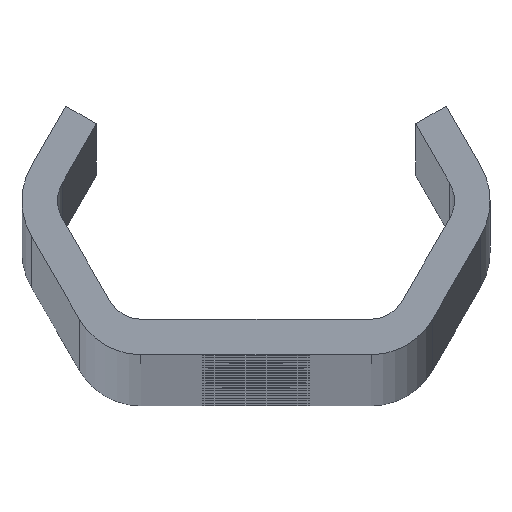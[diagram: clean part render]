
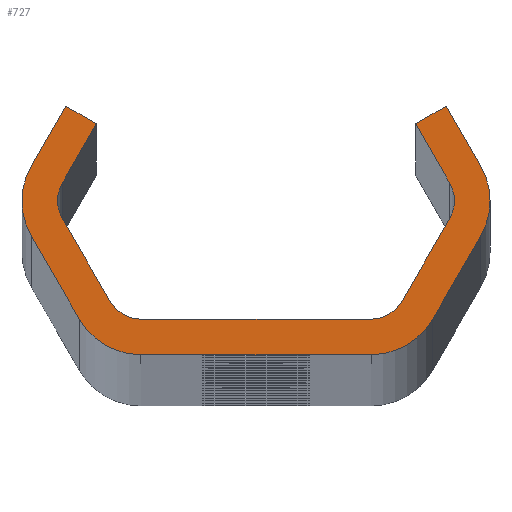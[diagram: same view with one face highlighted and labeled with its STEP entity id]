
A CAD part, top view. The second image highlights one B-rep face of the part: STEP entity #727.
In plain terms, the highlighted planar face has unit normal (0, 0, 1).
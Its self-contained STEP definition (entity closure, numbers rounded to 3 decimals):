
#727=ADVANCED_FACE('NONE',(#2022),#2023,.F.);
#2022=FACE_OUTER_BOUND('',#6564,.T.);
#2023=PLANE('',#6565);
#6564=EDGE_LOOP('',(#13301,#13302,#13303,#13304,#13305,#13306,#13307,#13308,#13309,#13310,#13311,#13312,#13313,#13314,#13315,#13316,#13317,#13318,#13319,#13320,#13321,#13322,#13323,#13324));
#6565=AXIS2_PLACEMENT_3D('',#13325,#13326,#13327);
#13301=ORIENTED_EDGE('',*,*,#17765,.T.);
#13302=ORIENTED_EDGE('',*,*,#17807,.T.);
#13303=ORIENTED_EDGE('',*,*,#17392,.T.);
#13304=ORIENTED_EDGE('',*,*,#17767,.T.);
#13305=ORIENTED_EDGE('',*,*,#17808,.T.);
#13306=ORIENTED_EDGE('',*,*,#17771,.T.);
#13307=ORIENTED_EDGE('',*,*,#17809,.T.);
#13308=ORIENTED_EDGE('',*,*,#17399,.T.);
#13309=ORIENTED_EDGE('',*,*,#17810,.T.);
#13310=ORIENTED_EDGE('',*,*,#17070,.T.);
#13311=ORIENTED_EDGE('',*,*,#17402,.T.);
#13312=ORIENTED_EDGE('',*,*,#17408,.T.);
#13313=ORIENTED_EDGE('',*,*,#17411,.T.);
#13314=ORIENTED_EDGE('',*,*,#17389,.T.);
#13315=ORIENTED_EDGE('',*,*,#17811,.T.);
#13316=ORIENTED_EDGE('',*,*,#17413,.T.);
#13317=ORIENTED_EDGE('',*,*,#17812,.T.);
#13318=ORIENTED_EDGE('',*,*,#17420,.T.);
#13319=ORIENTED_EDGE('',*,*,#17813,.T.);
#13320=ORIENTED_EDGE('',*,*,#17752,.T.);
#13321=ORIENTED_EDGE('',*,*,#17814,.T.);
#13322=ORIENTED_EDGE('',*,*,#17065,.T.);
#13323=ORIENTED_EDGE('',*,*,#17755,.T.);
#13324=ORIENTED_EDGE('',*,*,#17761,.T.);
#13325=CARTESIAN_POINT('',(0.0,0.0,2480.0));
#13326=DIRECTION('',(0.0,0.0,-1.0));
#13327=DIRECTION('',(0.0,-1.0,0.0));
#17065=EDGE_CURVE('NONE',#19018,#19022,#19024,.T.);
#17070=EDGE_CURVE('NONE',#19027,#19031,#19033,.T.);
#17389=EDGE_CURVE('NONE',#19607,#19605,#19608,.T.);
#17392=EDGE_CURVE('NONE',#19611,#19612,#19613,.T.);
#17399=EDGE_CURVE('NONE',#19625,#19623,#19626,.T.);
#17402=EDGE_CURVE('NONE',#19031,#19629,#19630,.T.);
#17408=EDGE_CURVE('NONE',#19629,#19637,#19639,.T.);
#17411=EDGE_CURVE('NONE',#19637,#19607,#19642,.T.);
#17413=EDGE_CURVE('NONE',#19644,#19645,#19646,.T.);
#17420=EDGE_CURVE('NONE',#19658,#19656,#19659,.T.);
#17752=EDGE_CURVE('NONE',#20274,#20272,#20275,.T.);
#17755=EDGE_CURVE('NONE',#19022,#20278,#20279,.T.);
#17761=EDGE_CURVE('NONE',#20278,#20286,#20288,.T.);
#17765=EDGE_CURVE('NONE',#20286,#20292,#20294,.T.);
#17767=EDGE_CURVE('NONE',#19612,#20296,#20297,.T.);
#17771=EDGE_CURVE('NONE',#20302,#20303,#20304,.T.);
#17807=EDGE_CURVE('NONE',#20292,#19611,#20342,.T.);
#17808=EDGE_CURVE('NONE',#20296,#20302,#20343,.T.);
#17809=EDGE_CURVE('NONE',#20303,#19625,#20344,.T.);
#17810=EDGE_CURVE('NONE',#19623,#19027,#20345,.T.);
#17811=EDGE_CURVE('NONE',#19605,#19644,#20346,.T.);
#17812=EDGE_CURVE('NONE',#19645,#19658,#20347,.T.);
#17813=EDGE_CURVE('NONE',#19656,#20274,#20348,.T.);
#17814=EDGE_CURVE('NONE',#20272,#19018,#20349,.T.);
#19018=VERTEX_POINT('',#21913);
#19022=VERTEX_POINT('NONE',#21918);
#19024=CIRCLE('',#21921,3.0);
#19027=VERTEX_POINT('',#21924);
#19031=VERTEX_POINT('NONE',#21929);
#19033=CIRCLE('',#21932,6.0);
#19605=VERTEX_POINT('NONE',#25366);
#19607=VERTEX_POINT('NONE',#25369);
#19608=CIRCLE('',#25370,3.0);
#19611=VERTEX_POINT('NONE',#25374);
#19612=VERTEX_POINT('NONE',#25375);
#19613=CIRCLE('',#25376,6.0);
#19623=VERTEX_POINT('NONE',#25389);
#19625=VERTEX_POINT('NONE',#25392);
#19626=LINE('',#25393,#25394);
#19629=VERTEX_POINT('NONE',#25398);
#19630=LINE('',#25399,#25400);
#19637=VERTEX_POINT('NONE',#25410);
#19639=LINE('',#25413,#25414);
#19642=LINE('',#25418,#25419);
#19644=VERTEX_POINT('NONE',#25421);
#19645=VERTEX_POINT('NONE',#25422);
#19646=LINE('',#25423,#25424);
#19656=VERTEX_POINT('NONE',#25438);
#19658=VERTEX_POINT('NONE',#25441);
#19659=LINE('',#25442,#25443);
#20272=VERTEX_POINT('NONE',#27658);
#20274=VERTEX_POINT('NONE',#27661);
#20275=LINE('',#27662,#27663);
#20278=VERTEX_POINT('NONE',#27667);
#20279=LINE('',#27668,#27669);
#20286=VERTEX_POINT('NONE',#27679);
#20288=LINE('',#27682,#27683);
#20292=VERTEX_POINT('NONE',#27688);
#20294=LINE('',#27691,#27692);
#20296=VERTEX_POINT('NONE',#27694);
#20297=LINE('',#27695,#27696);
#20302=VERTEX_POINT('NONE',#27703);
#20303=VERTEX_POINT('NONE',#27704);
#20304=LINE('',#27705,#27706);
#20342=CIRCLE('',#27747,6.0);
#20343=CIRCLE('',#27748,6.0);
#20344=CIRCLE('',#27749,6.0);
#20345=CIRCLE('',#27750,6.0);
#20346=CIRCLE('',#27751,3.0);
#20347=CIRCLE('',#27752,3.0);
#20348=CIRCLE('',#27753,3.0);
#20349=CIRCLE('',#27754,3.0);
#21913=CARTESIAN_POINT('',(-16.764,0.,2480.0));
#21918=CARTESIAN_POINT('',(-16.362,1.5,2480.0));
#21921=AXIS2_PLACEMENT_3D('',#32921,#32922,#32923);
#21924=CARTESIAN_POINT('',(19.764,0.,2480.0));
#21929=CARTESIAN_POINT('',(18.96,3.,2480.0));
#21932=AXIS2_PLACEMENT_3D('',#32929,#32930,#32931);
#25366=CARTESIAN_POINT('',(16.764,0.,2480.0));
#25369=CARTESIAN_POINT('',(16.362,1.5,2480.0));
#25370=AXIS2_PLACEMENT_3D('',#33248,#33249,#33250);
#25374=CARTESIAN_POINT('',(-19.764,0.,2480.0));
#25375=CARTESIAN_POINT('',(-18.96,-3.,2480.0));
#25376=AXIS2_PLACEMENT_3D('',#33252,#33253,#33254);
#25389=CARTESIAN_POINT('',(18.96,-3.,2480.0));
#25392=CARTESIAN_POINT('',(14.919,-10.,2480.0));
#25393=CARTESIAN_POINT('',(20.692,0.,2480.0));
#25394=VECTOR('',#33262,1000.0);
#25398=CARTESIAN_POINT('',(16.074,8.,2480.0));
#25399=CARTESIAN_POINT('',(16.074,8.,2480.0));
#25400=VECTOR('',#33264,1000.0);
#25410=CARTESIAN_POINT('',(13.475,6.5,2480.0));
#25413=CARTESIAN_POINT('',(13.475,6.5,2480.0));
#25414=VECTOR('',#33269,1000.0);
#25418=CARTESIAN_POINT('',(17.228,0.,2480.0));
#25419=VECTOR('',#33271,1000.0);
#25421=CARTESIAN_POINT('',(16.362,-1.5,2480.0));
#25422=CARTESIAN_POINT('',(12.321,-8.5,2480.0));
#25423=CARTESIAN_POINT('',(11.455,-10.0,2480.0));
#25424=VECTOR('',#33272,1000.0);
#25438=CARTESIAN_POINT('',(-9.723,-10.0,2480.0));
#25441=CARTESIAN_POINT('',(9.723,-10.0,2480.0));
#25442=CARTESIAN_POINT('',(-11.455,-10.0,2480.0));
#25443=VECTOR('',#33278,1000.0);
#27658=CARTESIAN_POINT('',(-16.362,-1.5,2480.0));
#27661=CARTESIAN_POINT('',(-12.321,-8.5,2480.0));
#27662=CARTESIAN_POINT('',(-17.228,0.,2480.0));
#27663=VECTOR('',#33639,1000.0);
#27667=CARTESIAN_POINT('',(-13.475,6.5,2480.0));
#27668=CARTESIAN_POINT('',(-13.475,6.5,2480.0));
#27669=VECTOR('',#33641,1000.0);
#27679=CARTESIAN_POINT('',(-16.074,8.,2480.0));
#27682=CARTESIAN_POINT('',(-13.475,6.5,2480.0));
#27683=VECTOR('',#33646,1000.0);
#27688=CARTESIAN_POINT('',(-18.96,3.,2480.0));
#27691=CARTESIAN_POINT('',(-16.074,8.,2480.0));
#27692=VECTOR('',#33649,1000.0);
#27694=CARTESIAN_POINT('',(-14.919,-10.,2480.0));
#27695=CARTESIAN_POINT('',(-20.692,0.,2480.0));
#27696=VECTOR('',#33650,1000.0);
#27703=CARTESIAN_POINT('',(-9.723,-13.0,2480.0));
#27704=CARTESIAN_POINT('',(9.723,-13.0,2480.0));
#27705=CARTESIAN_POINT('',(-13.187,-13.0,2480.0));
#27706=VECTOR('',#33653,1000.0);
#27747=AXIS2_PLACEMENT_3D('',#33750,#33751,#33752);
#27748=AXIS2_PLACEMENT_3D('',#33753,#33754,#33755);
#27749=AXIS2_PLACEMENT_3D('',#33756,#33757,#33758);
#27750=AXIS2_PLACEMENT_3D('',#33759,#33760,#33761);
#27751=AXIS2_PLACEMENT_3D('',#33762,#33763,#33764);
#27752=AXIS2_PLACEMENT_3D('',#33765,#33766,#33767);
#27753=AXIS2_PLACEMENT_3D('',#33768,#33769,#33770);
#27754=AXIS2_PLACEMENT_3D('',#33771,#33772,#33773);
#32921=CARTESIAN_POINT('',(-13.764,0.,2480.0));
#32922=DIRECTION('',(0.0,0.0,-1.0));
#32923=DIRECTION('',(-1.0,0.0,0.0));
#32929=CARTESIAN_POINT('',(13.764,0.,2480.0));
#32930=DIRECTION('',(0.0,0.0,1.0));
#32931=DIRECTION('',(-1.0,0.0,0.0));
#33248=CARTESIAN_POINT('',(13.764,0.,2480.0));
#33249=DIRECTION('',(0.0,0.0,-1.0));
#33250=DIRECTION('',(-1.0,0.0,0.0));
#33252=CARTESIAN_POINT('',(-13.764,0.,2480.0));
#33253=DIRECTION('',(0.0,0.0,1.0));
#33254=DIRECTION('',(-1.0,0.0,0.0));
#33262=DIRECTION('',(0.5,0.866,-0.0));
#33264=DIRECTION('',(-0.5,0.866,-0.0));
#33269=DIRECTION('',(-0.866,-0.5,-0.0));
#33271=DIRECTION('',(0.5,-0.866,-0.0));
#33272=DIRECTION('',(-0.5,-0.866,-0.0));
#33278=DIRECTION('',(-1.0,0.,-0.0));
#33639=DIRECTION('',(-0.5,0.866,-0.0));
#33641=DIRECTION('',(0.5,0.866,-0.0));
#33646=DIRECTION('',(-0.866,0.5,0.0));
#33649=DIRECTION('',(-0.5,-0.866,0.0));
#33650=DIRECTION('',(0.5,-0.866,0.0));
#33653=DIRECTION('',(1.0,0.0,0.0));
#33750=CARTESIAN_POINT('',(-13.764,0.,2480.0));
#33751=DIRECTION('',(0.0,0.0,1.0));
#33752=DIRECTION('',(-1.0,0.,0.0));
#33753=CARTESIAN_POINT('',(-9.723,-7.0,2480.0));
#33754=DIRECTION('',(0.0,0.0,1.0));
#33755=DIRECTION('',(-1.0,0.0,0.0));
#33756=CARTESIAN_POINT('',(9.723,-7.0,2480.0));
#33757=DIRECTION('',(0.0,0.0,1.0));
#33758=DIRECTION('',(-1.0,0.,0.0));
#33759=CARTESIAN_POINT('',(13.764,0.,2480.0));
#33760=DIRECTION('',(0.0,0.0,1.0));
#33761=DIRECTION('',(-1.0,0.0,0.0));
#33762=CARTESIAN_POINT('',(13.764,0.,2480.0));
#33763=DIRECTION('',(0.0,0.0,-1.0));
#33764=DIRECTION('',(-1.0,0.0,0.0));
#33765=CARTESIAN_POINT('',(9.723,-7.0,2480.0));
#33766=DIRECTION('',(0.0,0.0,-1.0));
#33767=DIRECTION('',(-1.0,0.0,0.0));
#33768=CARTESIAN_POINT('',(-9.723,-7.0,2480.0));
#33769=DIRECTION('',(0.0,0.0,-1.0));
#33770=DIRECTION('',(-1.0,0.0,0.0));
#33771=CARTESIAN_POINT('',(-13.764,0.,2480.0));
#33772=DIRECTION('',(0.0,0.0,-1.0));
#33773=DIRECTION('',(-1.0,0.0,0.0));
